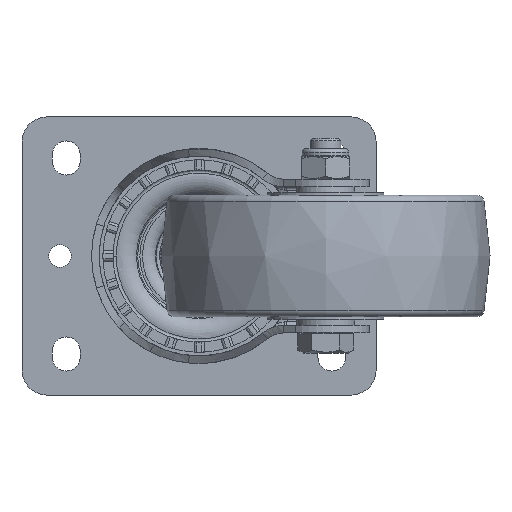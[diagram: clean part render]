
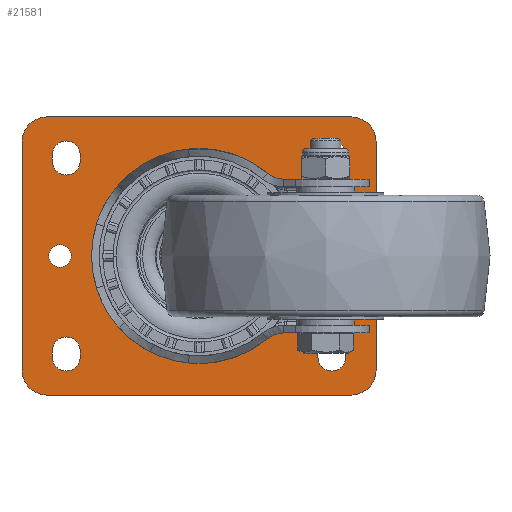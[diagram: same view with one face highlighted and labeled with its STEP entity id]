
A CAD part, front view. The second image highlights one B-rep face of the part: STEP entity #21581.
In plain terms, the highlighted planar face has unit normal (0, -1, 0).
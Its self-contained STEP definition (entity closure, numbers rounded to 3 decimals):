
#157=FACE_BOUND('',#6620,.T.);
#158=FACE_BOUND('',#6621,.T.);
#159=FACE_BOUND('',#6622,.T.);
#160=FACE_BOUND('',#6623,.T.);
#161=FACE_BOUND('',#6624,.T.);
#162=FACE_BOUND('',#6625,.T.);
#163=FACE_BOUND('',#6626,.T.);
#497=PLANE('',#22797);
#1823=LINE('',#35034,#3698);
#1826=LINE('',#35043,#3701);
#1829=LINE('',#35051,#3704);
#1831=LINE('',#35059,#3706);
#1835=LINE('',#35068,#3710);
#1837=LINE('',#35075,#3712);
#1841=LINE('',#35084,#3716);
#1843=LINE('',#35091,#3718);
#1847=LINE('',#35100,#3722);
#1849=LINE('',#35107,#3724);
#1853=LINE('',#35116,#3728);
#1855=LINE('',#35121,#3730);
#3698=VECTOR('',#25541,10.);
#3701=VECTOR('',#25552,10.);
#3704=VECTOR('',#25561,10.);
#3706=VECTOR('',#25569,10.);
#3710=VECTOR('',#25579,10.);
#3712=VECTOR('',#25587,10.);
#3716=VECTOR('',#25597,10.);
#3718=VECTOR('',#25605,10.);
#3722=VECTOR('',#25615,10.);
#3724=VECTOR('',#25623,10.);
#3728=VECTOR('',#25633,10.);
#3730=VECTOR('',#25641,10.);
#5347=FACE_OUTER_BOUND('',#6619,.T.);
#6619=EDGE_LOOP('',(#17553,#17554,#17555,#17556,#17557,#17558,#17559,#17560));
#6620=EDGE_LOOP('',(#17561));
#6621=EDGE_LOOP('',(#17562));
#6622=EDGE_LOOP('',(#17563,#17564,#17565,#17566));
#6623=EDGE_LOOP('',(#17567,#17568,#17569,#17570));
#6624=EDGE_LOOP('',(#17571,#17572,#17573,#17574));
#6625=EDGE_LOOP('',(#17575,#17576,#17577,#17578));
#6626=EDGE_LOOP('',(#17579));
#7411=CIRCLE('',#22713,4.5);
#7412=CIRCLE('',#22715,4.5);
#7439=CIRCLE('',#22756,10.);
#7440=CIRCLE('',#22760,10.);
#7441=CIRCLE('',#22763,10.);
#7442=CIRCLE('',#22766,10.);
#7443=CIRCLE('',#22769,5.5);
#7444=CIRCLE('',#22772,5.5);
#7445=CIRCLE('',#22775,5.5);
#7446=CIRCLE('',#22778,5.5);
#7447=CIRCLE('',#22781,5.5);
#7448=CIRCLE('',#22784,5.5);
#7449=CIRCLE('',#22787,5.5);
#7450=CIRCLE('',#22790,5.5);
#7451=CIRCLE('',#22793,42.09);
#9787=VERTEX_POINT('',#34957);
#9788=VERTEX_POINT('',#34961);
#9808=VERTEX_POINT('',#35026);
#9809=VERTEX_POINT('',#35027);
#9810=VERTEX_POINT('',#35032);
#9811=VERTEX_POINT('',#35037);
#9812=VERTEX_POINT('',#35041);
#9813=VERTEX_POINT('',#35045);
#9814=VERTEX_POINT('',#35046);
#9815=VERTEX_POINT('',#35053);
#9816=VERTEX_POINT('',#35057);
#9817=VERTEX_POINT('',#35058);
#9818=VERTEX_POINT('',#35063);
#9819=VERTEX_POINT('',#35067);
#9820=VERTEX_POINT('',#35073);
#9821=VERTEX_POINT('',#35074);
#9822=VERTEX_POINT('',#35079);
#9823=VERTEX_POINT('',#35083);
#9824=VERTEX_POINT('',#35089);
#9825=VERTEX_POINT('',#35090);
#9826=VERTEX_POINT('',#35095);
#9827=VERTEX_POINT('',#35099);
#9828=VERTEX_POINT('',#35105);
#9829=VERTEX_POINT('',#35106);
#9830=VERTEX_POINT('',#35111);
#9831=VERTEX_POINT('',#35115);
#9832=VERTEX_POINT('',#35123);
#12511=EDGE_CURVE('',#9787,#9787,#7411,.T.);
#12513=EDGE_CURVE('',#9788,#9788,#7412,.T.);
#12543=EDGE_CURVE('',#9808,#9809,#7439,.T.);
#12547=EDGE_CURVE('',#9808,#9810,#1823,.T.);
#12548=EDGE_CURVE('',#9811,#9810,#7440,.T.);
#12551=EDGE_CURVE('',#9811,#9812,#1826,.T.);
#12552=EDGE_CURVE('',#9813,#9814,#7441,.T.);
#12555=EDGE_CURVE('',#9813,#9809,#1829,.T.);
#12556=EDGE_CURVE('',#9815,#9812,#7442,.T.);
#12558=EDGE_CURVE('',#9816,#9817,#1831,.T.);
#12561=EDGE_CURVE('',#9817,#9818,#7443,.T.);
#12563=EDGE_CURVE('',#9818,#9819,#1835,.T.);
#12565=EDGE_CURVE('',#9819,#9816,#7444,.T.);
#12566=EDGE_CURVE('',#9820,#9821,#1837,.T.);
#12569=EDGE_CURVE('',#9822,#9820,#7445,.T.);
#12571=EDGE_CURVE('',#9823,#9822,#1841,.T.);
#12573=EDGE_CURVE('',#9821,#9823,#7446,.T.);
#12574=EDGE_CURVE('',#9824,#9825,#1843,.T.);
#12577=EDGE_CURVE('',#9826,#9824,#7447,.T.);
#12579=EDGE_CURVE('',#9827,#9826,#1847,.T.);
#12581=EDGE_CURVE('',#9825,#9827,#7448,.T.);
#12582=EDGE_CURVE('',#9828,#9829,#1849,.T.);
#12585=EDGE_CURVE('',#9829,#9830,#7449,.T.);
#12587=EDGE_CURVE('',#9830,#9831,#1853,.T.);
#12589=EDGE_CURVE('',#9831,#9828,#7450,.T.);
#12590=EDGE_CURVE('',#9815,#9814,#1855,.T.);
#12591=EDGE_CURVE('',#9832,#9832,#7451,.T.);
#17553=ORIENTED_EDGE('',*,*,#12543,.F.);
#17554=ORIENTED_EDGE('',*,*,#12547,.T.);
#17555=ORIENTED_EDGE('',*,*,#12548,.F.);
#17556=ORIENTED_EDGE('',*,*,#12551,.T.);
#17557=ORIENTED_EDGE('',*,*,#12556,.F.);
#17558=ORIENTED_EDGE('',*,*,#12590,.T.);
#17559=ORIENTED_EDGE('',*,*,#12552,.F.);
#17560=ORIENTED_EDGE('',*,*,#12555,.T.);
#17561=ORIENTED_EDGE('',*,*,#12511,.T.);
#17562=ORIENTED_EDGE('',*,*,#12513,.T.);
#17563=ORIENTED_EDGE('',*,*,#12558,.T.);
#17564=ORIENTED_EDGE('',*,*,#12561,.T.);
#17565=ORIENTED_EDGE('',*,*,#12563,.T.);
#17566=ORIENTED_EDGE('',*,*,#12565,.T.);
#17567=ORIENTED_EDGE('',*,*,#12566,.T.);
#17568=ORIENTED_EDGE('',*,*,#12573,.T.);
#17569=ORIENTED_EDGE('',*,*,#12571,.T.);
#17570=ORIENTED_EDGE('',*,*,#12569,.T.);
#17571=ORIENTED_EDGE('',*,*,#12574,.T.);
#17572=ORIENTED_EDGE('',*,*,#12581,.T.);
#17573=ORIENTED_EDGE('',*,*,#12579,.T.);
#17574=ORIENTED_EDGE('',*,*,#12577,.T.);
#17575=ORIENTED_EDGE('',*,*,#12587,.T.);
#17576=ORIENTED_EDGE('',*,*,#12589,.T.);
#17577=ORIENTED_EDGE('',*,*,#12582,.T.);
#17578=ORIENTED_EDGE('',*,*,#12585,.T.);
#17579=ORIENTED_EDGE('',*,*,#12591,.T.);
#21581=ADVANCED_FACE('',(#5347,#157,#158,#159,#160,#161,#162,#163),#497,
 .T.);
#22713=AXIS2_PLACEMENT_3D('',#34959,#25444,#25445);
#22715=AXIS2_PLACEMENT_3D('',#34963,#25449,#25450);
#22756=AXIS2_PLACEMENT_3D('',#35028,#25534,#25535);
#22760=AXIS2_PLACEMENT_3D('',#35038,#25546,#25547);
#22763=AXIS2_PLACEMENT_3D('',#35047,#25555,#25556);
#22766=AXIS2_PLACEMENT_3D('',#35054,#25564,#25565);
#22769=AXIS2_PLACEMENT_3D('',#35064,#25574,#25575);
#22772=AXIS2_PLACEMENT_3D('',#35071,#25583,#25584);
#22775=AXIS2_PLACEMENT_3D('',#35080,#25592,#25593);
#22778=AXIS2_PLACEMENT_3D('',#35087,#25601,#25602);
#22781=AXIS2_PLACEMENT_3D('',#35096,#25610,#25611);
#22784=AXIS2_PLACEMENT_3D('',#35103,#25619,#25620);
#22787=AXIS2_PLACEMENT_3D('',#35112,#25628,#25629);
#22790=AXIS2_PLACEMENT_3D('',#35119,#25637,#25638);
#22793=AXIS2_PLACEMENT_3D('',#35124,#25644,#25645);
#22797=AXIS2_PLACEMENT_3D('',#35130,#25652,#25653);
#25444=DIRECTION('center_axis',(0.,1.,0.));
#25445=DIRECTION('ref_axis',(1.,0.,0.));
#25449=DIRECTION('center_axis',(0.,1.,0.));
#25450=DIRECTION('ref_axis',(1.,0.,0.));
#25534=DIRECTION('center_axis',(0.,1.,0.));
#25535=DIRECTION('ref_axis',(0.707,0.,-0.707));
#25541=DIRECTION('',(0.,0.,1.));
#25546=DIRECTION('center_axis',(0.,1.,0.));
#25547=DIRECTION('ref_axis',(0.707,0.,0.707));
#25552=DIRECTION('',(-1.,0.,0.));
#25555=DIRECTION('center_axis',(0.,1.,0.));
#25556=DIRECTION('ref_axis',(-0.707,0.,-0.707));
#25561=DIRECTION('',(1.,0.,0.));
#25564=DIRECTION('center_axis',(0.,1.,0.));
#25565=DIRECTION('ref_axis',(-0.707,0.,0.707));
#25569=DIRECTION('',(0.,0.,-1.));
#25574=DIRECTION('center_axis',(0.,1.,0.));
#25575=DIRECTION('ref_axis',(1.,0.,0.));
#25579=DIRECTION('',(0.,0.,1.));
#25583=DIRECTION('center_axis',(0.,1.,0.));
#25584=DIRECTION('ref_axis',(-1.,0.,0.));
#25587=DIRECTION('',(0.,0.,1.));
#25592=DIRECTION('center_axis',(0.,1.,0.));
#25593=DIRECTION('ref_axis',(-1.,0.,0.));
#25597=DIRECTION('',(0.,0.,-1.));
#25601=DIRECTION('center_axis',(0.,1.,0.));
#25602=DIRECTION('ref_axis',(1.,0.,0.));
#25605=DIRECTION('',(0.,0.,-1.));
#25610=DIRECTION('center_axis',(0.,1.,0.));
#25611=DIRECTION('ref_axis',(1.,0.,0.));
#25615=DIRECTION('',(0.,0.,1.));
#25619=DIRECTION('center_axis',(0.,1.,0.));
#25620=DIRECTION('ref_axis',(-1.,0.,0.));
#25623=DIRECTION('',(0.,0.,1.));
#25628=DIRECTION('center_axis',(0.,1.,0.));
#25629=DIRECTION('ref_axis',(-1.,0.,0.));
#25633=DIRECTION('',(0.,0.,-1.));
#25637=DIRECTION('center_axis',(0.,1.,0.));
#25638=DIRECTION('ref_axis',(1.,0.,0.));
#25641=DIRECTION('',(0.,0.,-1.));
#25644=DIRECTION('center_axis',(0.,1.,0.));
#25645=DIRECTION('ref_axis',(1.,0.,0.));
#25652=DIRECTION('center_axis',(0.,-1.,0.));
#25653=DIRECTION('ref_axis',(0.,0.,-1.));
#34957=CARTESIAN_POINT('',(-59.5,-4.,0.));
#34959=CARTESIAN_POINT('Origin',(-55.,-4.,0.));
#34961=CARTESIAN_POINT('',(50.5,-4.,0.));
#34963=CARTESIAN_POINT('Origin',(55.,-4.,0.));
#35026=CARTESIAN_POINT('',(70.,-4.,-45.));
#35027=CARTESIAN_POINT('',(60.,-4.,-55.));
#35028=CARTESIAN_POINT('Origin',(60.,-4.,-45.));
#35032=CARTESIAN_POINT('',(70.,-4.,45.));
#35034=CARTESIAN_POINT('',(70.,-4.,55.));
#35037=CARTESIAN_POINT('',(60.,-4.,55.));
#35038=CARTESIAN_POINT('Origin',(60.,-4.,45.));
#35041=CARTESIAN_POINT('',(-60.,-4.,55.));
#35043=CARTESIAN_POINT('',(-70.,-4.,55.));
#35045=CARTESIAN_POINT('',(-60.,-4.,-55.));
#35046=CARTESIAN_POINT('',(-70.,-4.,-45.));
#35047=CARTESIAN_POINT('Origin',(-60.,-4.,-45.));
#35051=CARTESIAN_POINT('',(70.,-4.,-55.));
#35053=CARTESIAN_POINT('',(-70.,-4.,45.));
#35054=CARTESIAN_POINT('Origin',(-60.,-4.,45.));
#35057=CARTESIAN_POINT('',(58.,-4.,40.));
#35058=CARTESIAN_POINT('',(58.,-4.,37.5));
#35059=CARTESIAN_POINT('',(58.,-4.,18.75));
#35063=CARTESIAN_POINT('',(47.,-4.,37.5));
#35064=CARTESIAN_POINT('Origin',(52.5,-4.,37.5));
#35067=CARTESIAN_POINT('',(47.,-4.,40.));
#35068=CARTESIAN_POINT('',(47.,-4.,20.));
#35071=CARTESIAN_POINT('Origin',(52.5,-4.,40.));
#35073=CARTESIAN_POINT('',(-58.,-4.,37.5));
#35074=CARTESIAN_POINT('',(-58.,-4.,40.));
#35075=CARTESIAN_POINT('',(-58.,-4.,18.75));
#35079=CARTESIAN_POINT('',(-47.,-4.,37.5));
#35080=CARTESIAN_POINT('Origin',(-52.5,-4.,37.5));
#35083=CARTESIAN_POINT('',(-47.,-4.,40.));
#35084=CARTESIAN_POINT('',(-47.,-4.,20.));
#35087=CARTESIAN_POINT('Origin',(-52.5,-4.,40.));
#35089=CARTESIAN_POINT('',(58.,-4.,-37.5));
#35090=CARTESIAN_POINT('',(58.,-4.,-40.));
#35091=CARTESIAN_POINT('',(58.,-4.,-18.75));
#35095=CARTESIAN_POINT('',(47.,-4.,-37.5));
#35096=CARTESIAN_POINT('Origin',(52.5,-4.,-37.5));
#35099=CARTESIAN_POINT('',(47.,-4.,-40.));
#35100=CARTESIAN_POINT('',(47.,-4.,-20.));
#35103=CARTESIAN_POINT('Origin',(52.5,-4.,-40.));
#35105=CARTESIAN_POINT('',(-58.,-4.,-40.));
#35106=CARTESIAN_POINT('',(-58.,-4.,-37.5));
#35107=CARTESIAN_POINT('',(-58.,-4.,-18.75));
#35111=CARTESIAN_POINT('',(-47.,-4.,-37.5));
#35112=CARTESIAN_POINT('Origin',(-52.5,-4.,-37.5));
#35115=CARTESIAN_POINT('',(-47.,-4.,-40.));
#35116=CARTESIAN_POINT('',(-47.,-4.,-20.));
#35119=CARTESIAN_POINT('Origin',(-52.5,-4.,-40.));
#35121=CARTESIAN_POINT('',(-70.,-4.,-55.));
#35123=CARTESIAN_POINT('',(0.,-4.,-42.09));
#35124=CARTESIAN_POINT('Origin',(0.,-4.,0.));
#35130=CARTESIAN_POINT('Origin',(-50.,-4.,0.));
